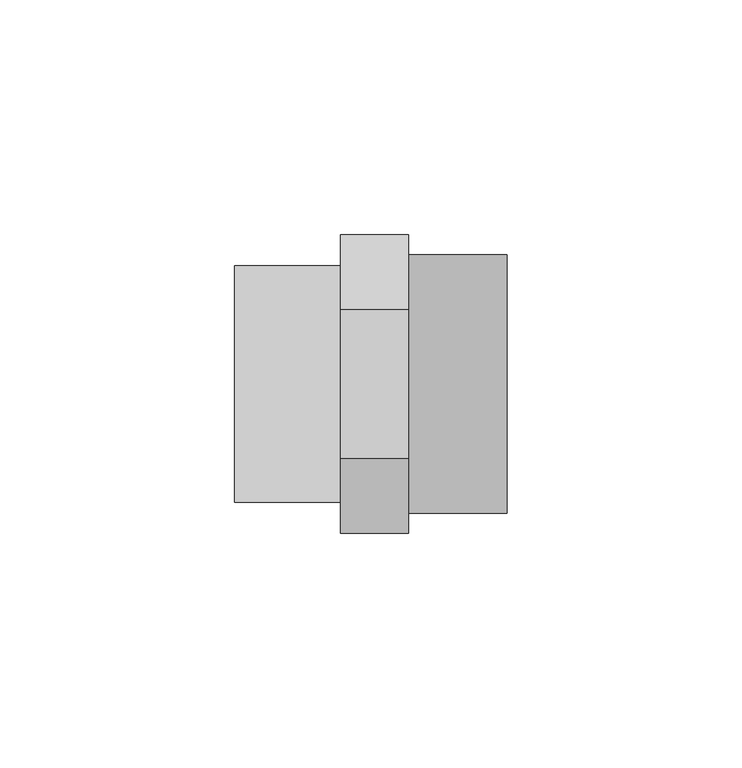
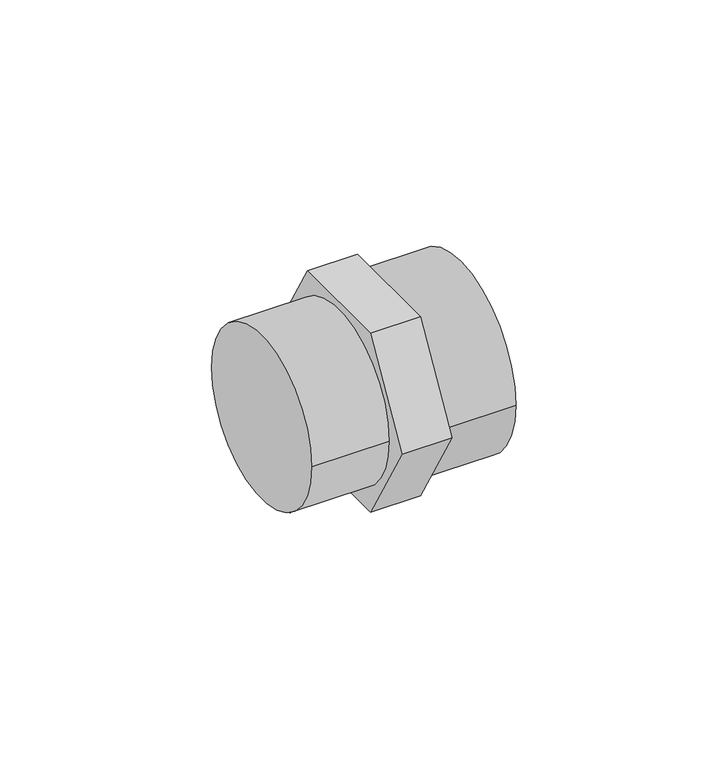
"""IFC4 building model written with IfcOpenShell, lengths in millimetres: pipe fitting geometry."""

from ifc_helpers import new_model, si_unit, point, frame, origin, origin_2d, place, context, project, spatial, polyline, circle_curve, trimmed, segment, composite_curve, outline, extrude, source, transform, mapped, element, save


def pipe_fitting_f0e1f4b9(model_context):
    return source(origin(), model_context, "Body", "SweptSolid", [
        extrude(outline(composite_curve([segment(trimmed(circle_curve(origin_2d(), 25.2), [point((25.2, 0.0))], [point((-25.2, 0.0))], False, "CARTESIAN"), True, "CONTINUOUS"), segment(trimmed(circle_curve(origin_2d(), 25.2), [point((-25.2, 0.0))], [point((25.2, 0.0))], False, "CARTESIAN"), True, "CONTINUOUS")], self_intersect=False)), frame((0.0, 0.0, 0.0), z_axis=(1.0, 0.0, 0.0), x_axis=(0.0, 1.0, 0.0)), (0.0, 0.0, 1.0), 22.5),
        extrude(outline(polyline([(-15.8771324, 27.5), (15.8771324, 27.5), (31.7542648, 0.0), (15.8771324, -27.5), (-15.8771324, -27.5), (-31.7542648, 0.0), (-15.8771324, 27.5)])), frame((22.5, 0.0, 0.0), z_axis=(1.0, 0.0, 0.0), x_axis=(0.0, 1.0, 0.0)), (0.0, 0.0, 1.0), 14.5),
        extrude(outline(composite_curve([segment(trimmed(circle_curve(origin_2d(), 27.5), [point((-27.5, 0.0))], [point((27.5, 0.0))], False, "CARTESIAN"), True, "CONTINUOUS"), segment(trimmed(circle_curve(origin_2d(), 27.5), [point((27.5, 0.0))], [point((-27.5, 0.0))], False, "CARTESIAN"), True, "CONTINUOUS")], self_intersect=False)), frame((37.0, 0.0, 0.0), z_axis=(1.0, 0.0, 0.0), x_axis=(0.0, 1.0, 0.0)), (0.0, 0.0, 1.0), 21.0),
    ])


if __name__ == "__main__":
    model = new_model("IFC4")
    model_context = context("Model", 3, world=origin())
    ifc_project = project(units=[si_unit("LENGTHUNIT", "METRE", prefix="MILLI")], contexts=[model_context])
    site = spatial("IfcSite", under=ifc_project)
    building = spatial("IfcBuilding", under=site)
    placement = place(None, origin())
    pipe_fitting_shape = pipe_fitting_f0e1f4b9(model_context)
    element("IfcPipeFitting", 1, at=placement, inside=building, context=model_context, shape_type="MappedRepresentation", body=[
        mapped(pipe_fitting_shape, transform((0.0, 0.0, 0.0), x_axis=(1.0, 0.0, 0.0), y_axis=(0.0, 1.0, 0.0), z_axis=(0.0, 0.0, 1.0))),
    ])
    save(model, "model.ifc")
